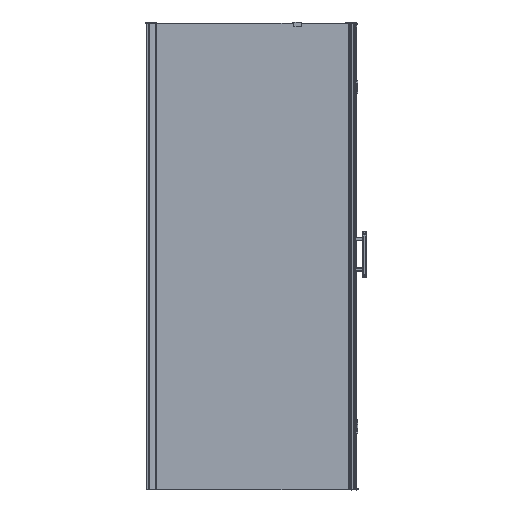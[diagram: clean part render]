
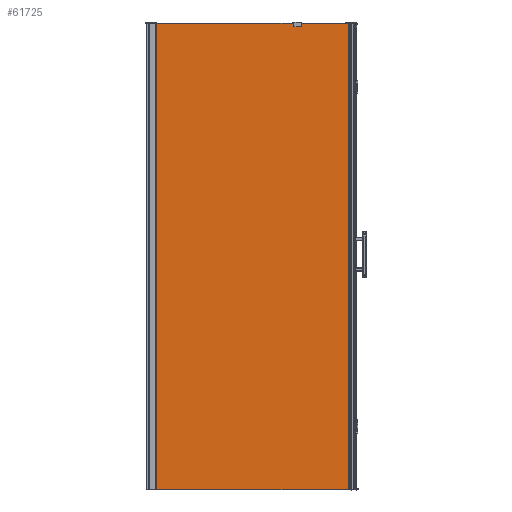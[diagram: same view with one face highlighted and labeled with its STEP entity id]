
A CAD part, top view. The second image highlights one B-rep face of the part: STEP entity #61725.
In plain terms, the highlighted planar face has unit normal (0, 0, 1).
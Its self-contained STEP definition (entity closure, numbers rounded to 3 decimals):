
#6199=FACE_OUTER_BOUND('',#9681,.T.);
#9681=EDGE_LOOP('',(#39048,#39049,#39050,#39051));
#13511=LINE('',#86162,#18618);
#13519=LINE('',#86177,#18626);
#13520=LINE('',#86179,#18627);
#13521=LINE('',#86180,#18628);
#18618=VECTOR('',#70807,10.);
#18626=VECTOR('',#70819,10.);
#18627=VECTOR('',#70822,10.);
#18628=VECTOR('',#70823,10.);
#23668=VERTEX_POINT('',#86158);
#23670=VERTEX_POINT('',#86161);
#23674=VERTEX_POINT('',#86173);
#23675=VERTEX_POINT('',#86175);
#29546=EDGE_CURVE('',#23668,#23670,#13511,.T.);
#29554=EDGE_CURVE('',#23674,#23675,#13519,.T.);
#29555=EDGE_CURVE('',#23674,#23668,#13520,.T.);
#29556=EDGE_CURVE('',#23670,#23675,#13521,.T.);
#39048=ORIENTED_EDGE('',*,*,#29555,.F.);
#39049=ORIENTED_EDGE('',*,*,#29554,.T.);
#39050=ORIENTED_EDGE('',*,*,#29556,.F.);
#39051=ORIENTED_EDGE('',*,*,#29546,.F.);
#56625=PLANE('',#65383);
#61725=ADVANCED_FACE('',(#6199),#56625,.T.);
#65383=AXIS2_PLACEMENT_3D('',#86178,#70820,#70821);
#70807=DIRECTION('',(0.,1.,0.));
#70819=DIRECTION('',(0.,1.,0.));
#70820=DIRECTION('center_axis',(0.,0.,
1.));
#70821=DIRECTION('ref_axis',(1.,0.,0.));
#70822=DIRECTION('',(-1.,0.,0.));
#70823=DIRECTION('',(1.,0.,0.));
#86158=CARTESIAN_POINT('',(-1369.199,-1819.2,-599.961));
#86161=CARTESIAN_POINT('',(-1369.199,130.8,-599.961));
#86162=CARTESIAN_POINT('',(-1369.199,-1819.2,-599.961));
#86173=CARTESIAN_POINT('',(-542.003,-1819.2,-599.961));
#86175=CARTESIAN_POINT('',(-542.003,130.8,-599.961));
#86177=CARTESIAN_POINT('',(-542.003,-1819.2,-599.961));
#86178=CARTESIAN_POINT('Origin',(-1369.199,-1819.2,-599.961));
#86179=CARTESIAN_POINT('',(-542.003,-1819.2,-599.961));
#86180=CARTESIAN_POINT('',(-542.003,130.8,-599.961));
